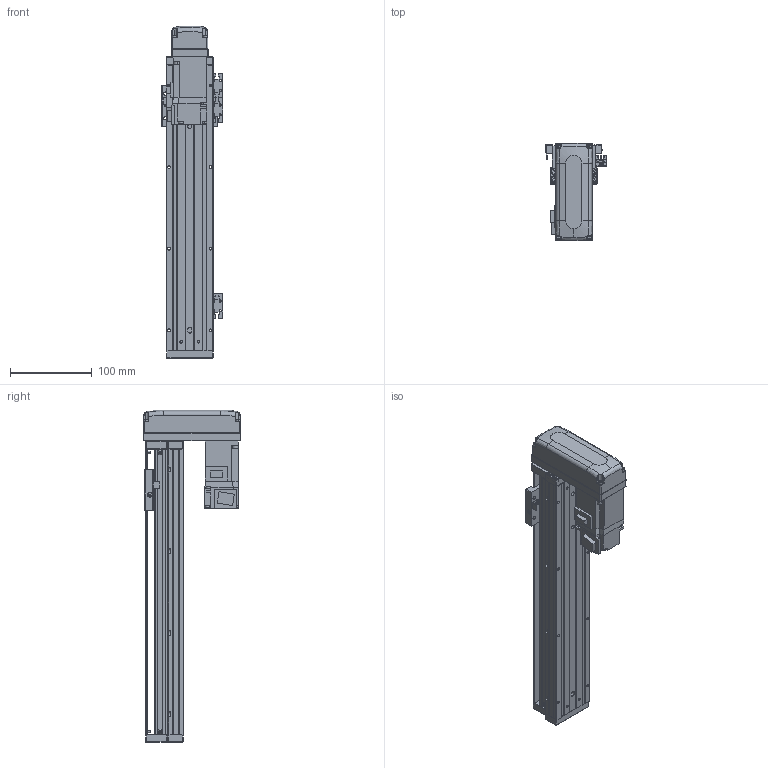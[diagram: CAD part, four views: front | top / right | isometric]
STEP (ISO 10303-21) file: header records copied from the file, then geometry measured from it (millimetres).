
FILE_DESCRIPTION (( 'STEP AP203' ), '1' );
FILE_NAME ('KTHA50-250-BM-M10-C4L.step', '2022-03-19T07:10:56', ( '微软用户' ), ( '微软中国' ), 'SwSTEP 2.0', 'SolidWorks 2020', '' );
FILE_SCHEMA (( 'CONFIG_CONTROL_DESIGN' ));
Length unit declared in the file: millimetre
Products named in the file (18): GBT 70.1-M3℅6; CTHA50-015-2_CTHA60-015-2; KTHA50-002; CTHA60-017; CTHA60-033; KTHA50-004; GBT 70.1-M4×12; GBT 70.1-M3×15; KTHA50-005; CTHA60-016; KTHA50-250-BM-M10-C4L; GB¨uT 70.2-M3¡Á6_M3¡Á6; CTHA60-021; EE_SX911P_R; GBT 70.3-M3℅6; GBT77-2000 M3×3; HG-KR13（三菱）; KTHA50-001_350
Assembly tree (53 placements, depth 2):
  KTHA50-250-BM-M10-C4L
    KTHA50-001_350
    KTHA50-002
    KTHA50-004
    KTHA50-005
    GB¨uT 70.2-M3¡Á6_M3¡Á6  x6
    EE_SX911P_R  x3
    GBT77-2000 M3×3  x6
    GBT 70.1-M3℅6  x6
    CTHA60-017  x3
    GBT 70.1-M4×12  x10
    CTHA60-016  x2
    CTHA60-021  x2
    GBT 70.3-M3℅6  x4
    HG-KR13（三菱）
    CTHA50-015-2_CTHA60-015-2
    CTHA60-033
    GBT 70.1-M3×15  x4
Bounding box: 75.22 x 120 x 407 mm (x, y, z)
Volume: 949326.4 mm3; surface area: 233793.5 mm2
Topology: 56 solids, 56 shells, 2223 faces, 5239 edges, 3208 vertices
Faces by surface type: plane 1240, cylinder 538, cone 303, torus 100, bspline 26, sphere 16
Entity records: 36943 total; most frequent: CARTESIAN_POINT 7010, DIRECTION 5745, ORIENTED_EDGE 5490, EDGE_CURVE 2745, AXIS2_PLACEMENT_3D 1959, VECTOR 1827, LINE 1827, VERTEX_POINT 1722
